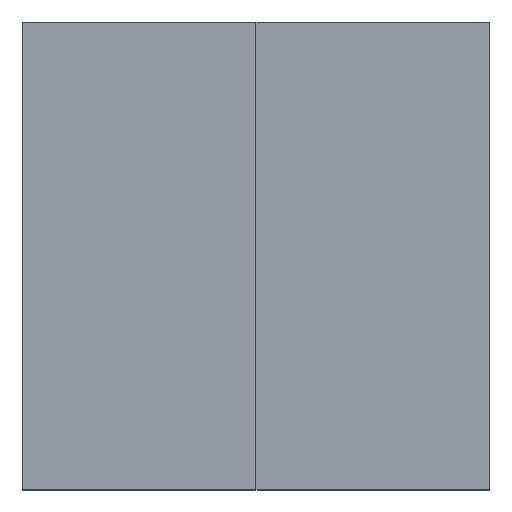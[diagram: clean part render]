
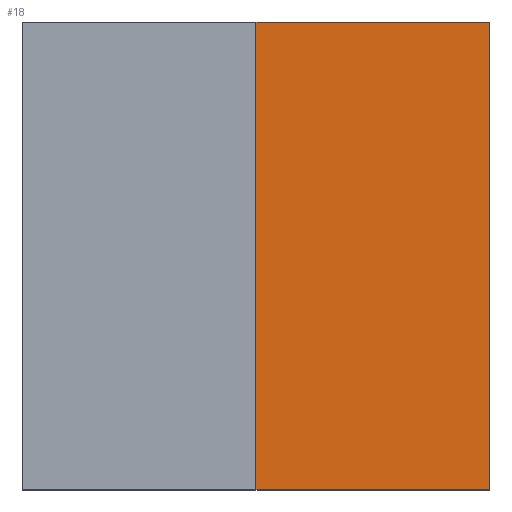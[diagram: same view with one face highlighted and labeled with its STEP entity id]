
A CAD part, top view. The second image highlights one B-rep face of the part: STEP entity #18.
In plain terms, the highlighted planar face has unit normal (0, 0, 1).
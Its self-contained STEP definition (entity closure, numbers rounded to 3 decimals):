
#18=ADVANCED_FACE('',(#28),#140,.T.);
#28=FACE_OUTER_BOUND('',#38,.T.);
#38=EDGE_LOOP('',(#57,#58,#59,#60));
#57=ORIENTED_EDGE('',*,*,#93,.T.);
#58=ORIENTED_EDGE('',*,*,#95,.T.);
#59=ORIENTED_EDGE('',*,*,#85,.T.);
#60=ORIENTED_EDGE('',*,*,#89,.T.);
#85=EDGE_CURVE('',#125,#126,#105,.T.);
#89=EDGE_CURVE('',#126,#129,#109,.T.);
#93=EDGE_CURVE('',#129,#132,#113,.T.);
#95=EDGE_CURVE('',#132,#125,#115,.T.);
#105=B_SPLINE_CURVE_WITH_KNOTS('',1,(#215,#216),.UNSPECIFIED.,.F.,.F.,(2,
2),(-856.,-642.),.UNSPECIFIED.);
#109=B_SPLINE_CURVE_WITH_KNOTS('',1,(#223,#224),.UNSPECIFIED.,.F.,.F.,(2,
2),(-642.,-535.),.UNSPECIFIED.);
#113=B_SPLINE_CURVE_WITH_KNOTS('',1,(#231,#232),.UNSPECIFIED.,.F.,.F.,(2,
2),(-214.,0.),.UNSPECIFIED.);
#115=B_SPLINE_CURVE_WITH_KNOTS('',1,(#235,#236),.UNSPECIFIED.,.F.,.F.,(2,
2),(-107.,0.),.UNSPECIFIED.);
#125=VERTEX_POINT('',#203);
#126=VERTEX_POINT('',#204);
#129=VERTEX_POINT('',#207);
#132=VERTEX_POINT('',#210);
#140=PLANE('',#170);
#170=AXIS2_PLACEMENT_3D('',#196,#183,$);
#183=DIRECTION('',(0.,0.,1.));
#196=CARTESIAN_POINT('',(-107.,-103.023,351.812));
#203=CARTESIAN_POINT('',(107.,-103.023,351.812));
#204=CARTESIAN_POINT('',(107.,110.977,351.812));
#207=CARTESIAN_POINT('',(0.,110.977,351.812));
#210=CARTESIAN_POINT('',(0.,-103.023,351.812));
#215=CARTESIAN_POINT('',(107.,-103.023,351.812));
#216=CARTESIAN_POINT('',(107.,110.977,351.812));
#223=CARTESIAN_POINT('',(107.,110.977,351.812));
#224=CARTESIAN_POINT('',(0.,110.977,351.812));
#231=CARTESIAN_POINT('',(0.,110.977,351.812));
#232=CARTESIAN_POINT('',(0.,-103.023,351.812));
#235=CARTESIAN_POINT('',(0.,-103.023,351.812));
#236=CARTESIAN_POINT('',(107.,-103.023,351.812));
